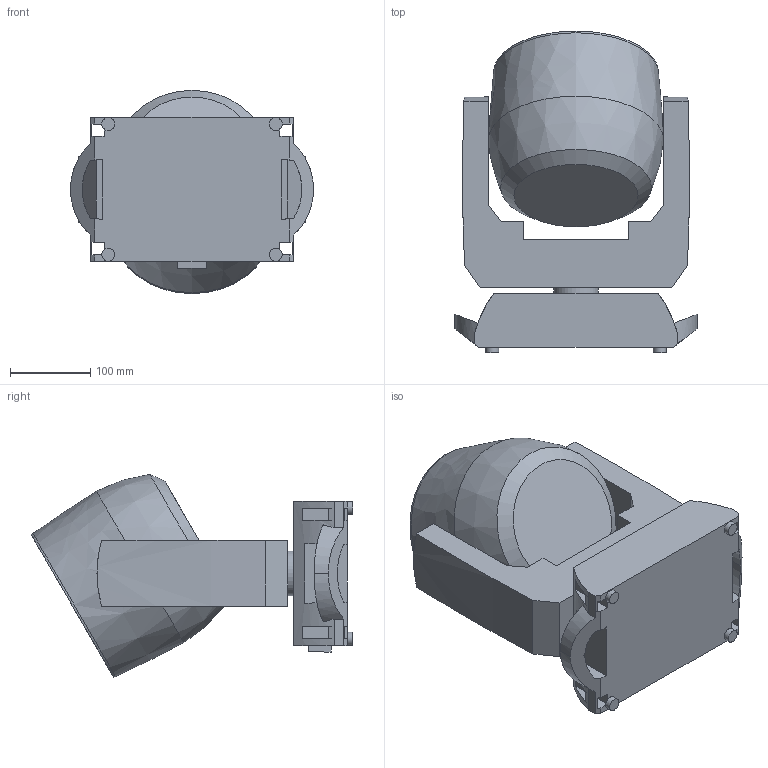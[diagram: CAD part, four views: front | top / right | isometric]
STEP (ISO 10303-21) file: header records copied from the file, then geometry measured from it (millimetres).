
FILE_DESCRIPTION(/* description */ (''),/* implementation_level */ '2;1');
FILE_NAME(/* name */ 'C:\Users\dgooch\Documents\!!CADENG\PRO\Rogue Outcast 2 Wash\Rogue Outcast 2X Wash_3D_CAD\Rogue Outcast 2X Wash_3D_30.stp',/* time_stamp */ '2022-06-14T17:26:51-04:00',/* author */ ('dgooch'),/* organization */ (''),/* preprocessor_version */ 'ST-DEVELOPER v19',/* originating_system */ 'Autodesk Inventor 2023',/* authorisation */ '');
FILE_SCHEMA (('AUTOMOTIVE_DESIGN { 1 0 10303 214 3 1 1 }'));
Length unit declared in the file: millimetre
Products named in the file (4): Rogue Outcast 2 Wash; Head; Arm; Base
Assembly tree (3 placements, depth 2):
  Rogue Outcast 2 Wash
    Head
    Arm
    Base
Bounding box: 302.56 x 401.08 x 253.36 mm (x, y, z)
Volume: 11259887.2 mm3; surface area: 511420 mm2
Topology: 3 solids, 3 shells, 99 faces, 271 edges, 177 vertices
Faces by surface type: plane 70, cylinder 26, bspline 2, cone 1
Full cylindrical faces by diameter (mm): 16 x4, 23.4 x4, 55.7 x2, 185 x1, 206 x1
Entity records: 3473 total; most frequent: CARTESIAN_POINT 739, ORIENTED_EDGE 542, DIRECTION 537, EDGE_CURVE 271, LINE 187, VECTOR 187, VERTEX_POINT 177, AXIS2_PLACEMENT_3D 175
